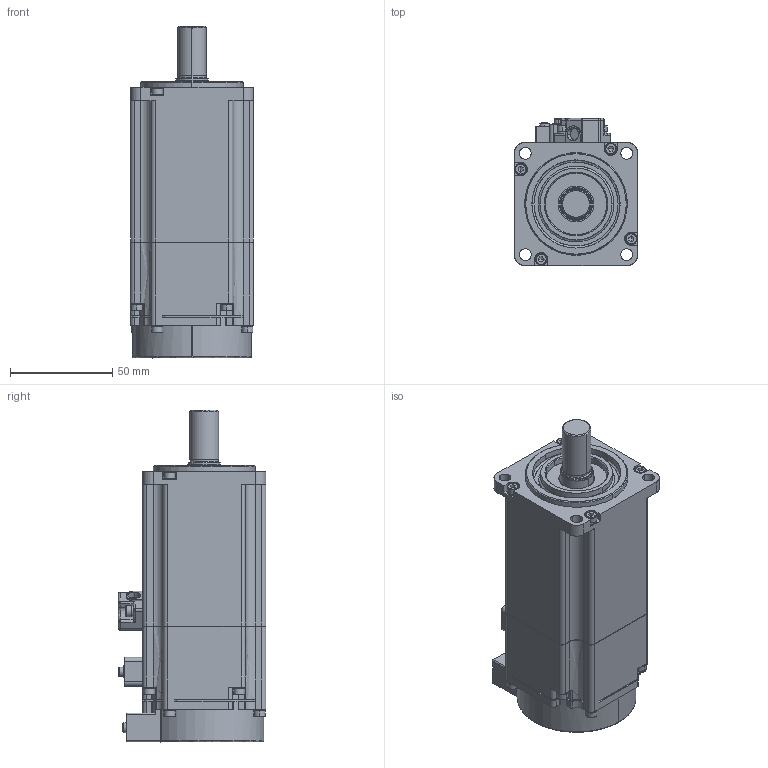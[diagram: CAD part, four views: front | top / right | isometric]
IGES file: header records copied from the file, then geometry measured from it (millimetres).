
Start section: SolidWorks IGES file using analytic representation for surfaces
Global section: file name: C:\景翔\圖面\20200518_SMESMP  馬達尺寸錯誤修正\(NEW)自行修改\3D-IGS\SME-H040B.IGS; native system: SolidWorks 2016; preprocessor: SolidWorks 2016; author: 13521; date: 200518.162849; units: millimetre
Bounding box: 60 x 72 x 162 mm (x, y, z)
Surface area: 80763.1 mm2 (no closed solid volume)
Topology: 0 solids, 0 shells, 1148 faces, 15832 edges, 15740 vertices
Faces by surface type: revolution 615, bspline 533
